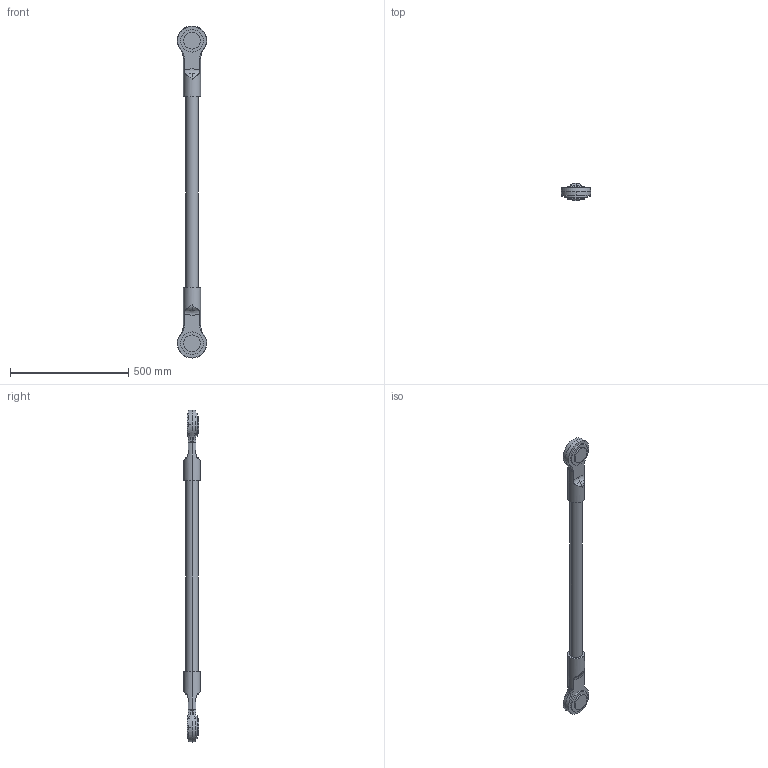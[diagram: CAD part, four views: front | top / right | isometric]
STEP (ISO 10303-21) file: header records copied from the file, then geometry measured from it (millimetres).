
FILE_DESCRIPTION (( 'STEP AP214' ), '1' );
FILE_NAME ('IRB760_445-318_Link V_CAD_rev00.STEP', '2020-02-03T12:35:33', ( '' ), ( '' ), 'SwSTEP 2.0', 'SolidWorks 2018', '' );
FILE_SCHEMA (( 'AUTOMOTIVE_DESIGN' ));
Length unit declared in the file: millimetre
Products named in the file (2): IRB760_445-318_Link V_CAD_rev00
Bounding box: 125 x 72 x 1405 mm (x, y, z)
Volume: 3703489.3 mm3; surface area: 298411.2 mm2
Topology: 1 solids, 1 shells, 77 faces, 183 edges, 118 vertices
Faces by surface type: bspline 24, cylinder 22, cone 17, plane 14
Entity records: 4395 total; most frequent: CARTESIAN_POINT 1844, ORIENTED_EDGE 366, DIRECTION 321, EDGE_CURVE 183, AXIS2_PLACEMENT_3D 139, VERTEX_POINT 118, EDGE_LOOP 87, CIRCLE 84
